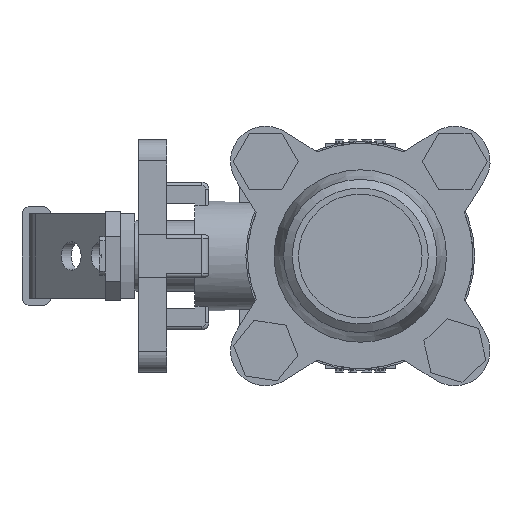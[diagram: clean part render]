
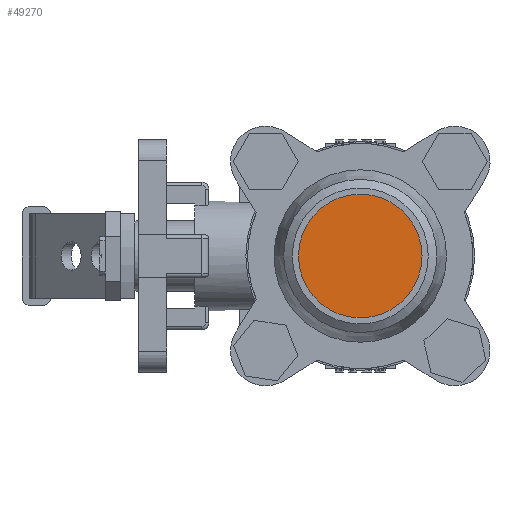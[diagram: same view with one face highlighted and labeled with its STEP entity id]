
A CAD part, left-side view. The second image highlights one B-rep face of the part: STEP entity #49270.
In plain terms, the highlighted planar face has unit normal (-1, 0, 0).
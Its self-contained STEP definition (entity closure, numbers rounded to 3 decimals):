
#49239=CARTESIAN_POINT('',(-52.0,0.,17.55));
#49240=VERTEX_POINT('',#49239);
#49241=CARTESIAN_POINT('',(-52.0,0.0,0.0));
#49242=DIRECTION('',(-1.0,0.0,0.0));
#49243=DIRECTION('',(0.0,0.0,-1.0));
#49244=AXIS2_PLACEMENT_3D('',#49241,#49242,#49243);
#49245=CIRCLE('',#49244,17.55);
#49246=EDGE_CURVE('',#49240,#49240,#49245,.T.);
#49262=CARTESIAN_POINT('',(-52.0,0.0,0.0));
#49263=DIRECTION('',(1.0,0.0,0.0));
#49264=DIRECTION('',(0.0,0.0,-1.0));
#49265=AXIS2_PLACEMENT_3D('',#49262,#49263,#49264);
#49266=PLANE('',#49265);
#49267=ORIENTED_EDGE('',*,*,#49246,.T.);
#49268=EDGE_LOOP('',(#49267));
#49269=FACE_OUTER_BOUND('',#49268,.T.);
#49270=ADVANCED_FACE('',(#49269),#49266,.F.);
